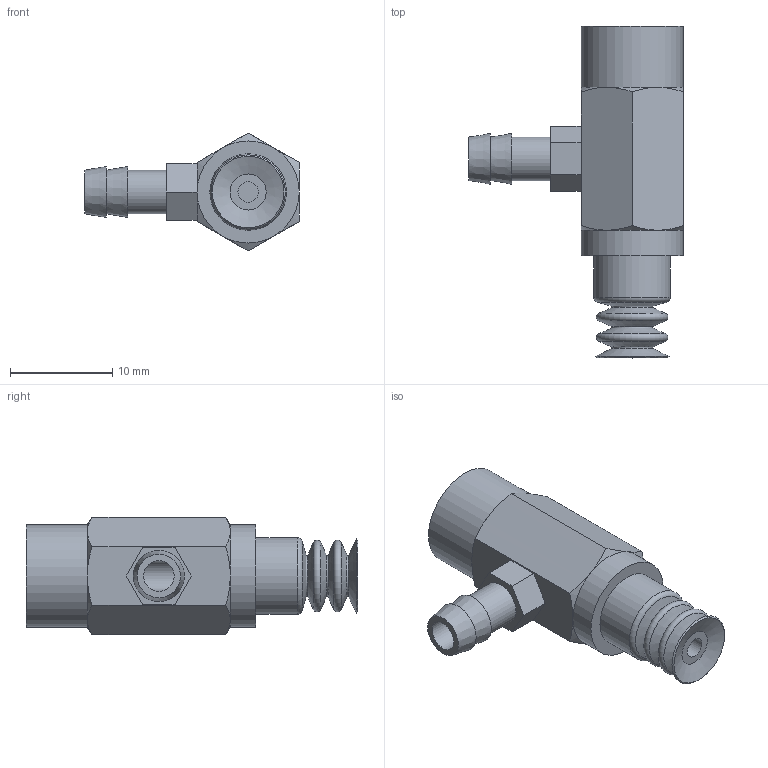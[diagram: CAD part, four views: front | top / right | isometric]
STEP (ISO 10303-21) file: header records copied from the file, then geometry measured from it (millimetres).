
FILE_DESCRIPTION(('STEP AP203'),'1');
FILE_NAME('.stp','2025-04-02T05:47:44',(' '),(' '),'Spatial InterOp 3D',' ',' ');
FILE_SCHEMA(('CONFIG_CONTROL_DESIGN'));
Length unit declared in the file: millimetre
Products named in the file (3): BBPCYK-7-※; PCYK-7; BPCG-7-※
Assembly tree (2 placements, depth 2):
  BBPCYK-7-※
    PCYK-7
    BPCG-7-※
Bounding box: 21 x 32.5 x 11.55 mm (x, y, z)
Volume: 2094.9 mm3; surface area: 2072.6 mm2
Topology: 2 solids, 2 shells, 80 faces, 163 edges, 96 vertices
Faces by surface type: plane 28, cone 25, cylinder 14, torus 13
Full cylindrical faces by diameter (mm): 2 x1, 3 x2, 3.242 x1, 4 x2, 4.26 x1, 5 x1, 6 x2, 7.5 x1, 10 x2
Entity records: 2182 total; most frequent: CARTESIAN_POINT 561, DIRECTION 318, ORIENTED_EDGE 234, AXIS2_PLACEMENT_3D 146, EDGE_LOOP 131, EDGE_CURVE 117, FACE_OUTER_BOUND 105, VERTEX_POINT 91
